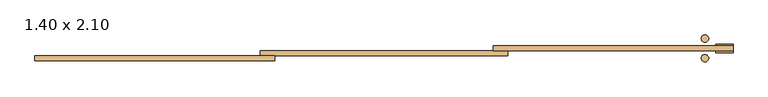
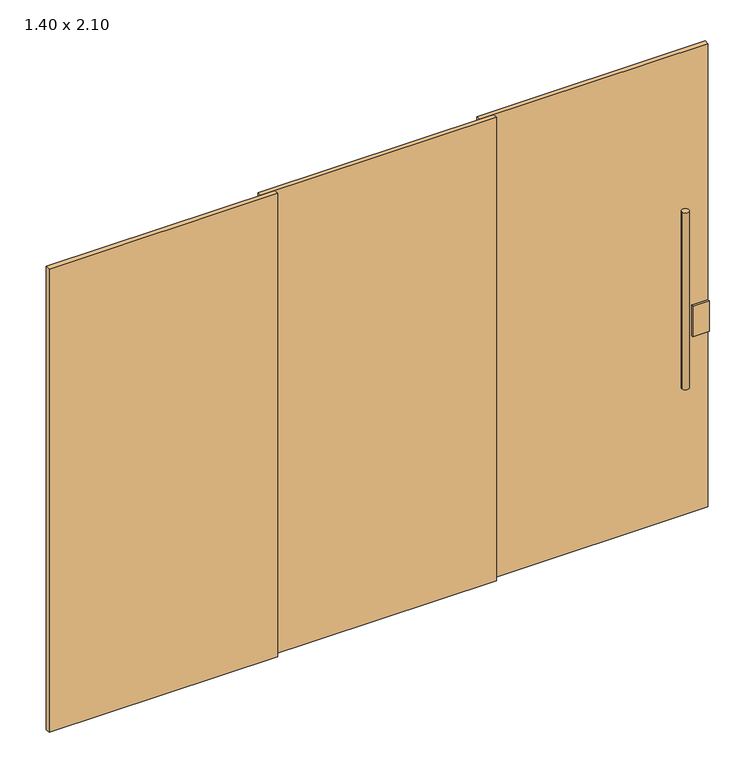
"""IFC4 building model written with IfcOpenShell, lengths in millimetres: door geometry, _Produtos_Arq_Bib_3F - Vidro temperado : 1.40 x 2.10."""

from ifc_helpers import new_model, si_unit, point, frame, frame_2d, origin, origin_with_axes, place, context, project, spatial, polyline, circle_curve, trimmed, segment, composite_curve, outline, extrude, source, transform, mapped, element, save


def door_1_40_x_2_10_d4d27d32(model_context):
    return source(origin(), model_context, "Body", "SweptSolid", [
        extrude(outline(polyline([(-445.0, -40.0), (-1425.0, -40.0), (-1425.0, -20.0), (-445.0, -20.0), (-445.0, -40.0)])), origin_with_axes(), (0.0, 0.0, 1.0), 2100.0),
        extrude(outline(composite_curve([segment(trimmed(circle_curve(frame_2d((1310.0, 50.0)), 15.0), [point((1295.0, 50.0))], [point((1325.0, 50.0))], False, "CARTESIAN"), True, "CONTINUOUS"), segment(trimmed(circle_curve(frame_2d((1310.0, 50.0)), 15.0), [point((1325.0, 50.0))], [point((1295.0, 50.0))], False, "CARTESIAN"), True, "CONTINUOUS")], self_intersect=False)), frame((0.0, 0.0, 600.0), z_axis=(0.0, 0.0, 1.0), x_axis=(1.0, 0.0, 0.0)), (0.0, 0.0, 1.0), 800.0),
        extrude(outline(composite_curve([segment(trimmed(circle_curve(frame_2d((1310.0, -30.0)), 15.0), [point((1295.0, -30.0))], [point((1325.0, -30.0))], False, "CARTESIAN"), True, "CONTINUOUS"), segment(trimmed(circle_curve(frame_2d((1310.0, -30.0)), 15.0), [point((1325.0, -30.0))], [point((1295.0, -30.0))], False, "CARTESIAN"), True, "CONTINUOUS")], self_intersect=False)), frame((0.0, 0.0, 600.0), z_axis=(0.0, 0.0, 1.0), x_axis=(1.0, 0.0, 0.0)), (0.0, 0.0, 1.0), 800.0),
        extrude(outline(polyline([(1425.0, 20.0), (1425.0, 0.0), (445.0, 0.0), (445.0, 20.0), (1425.0, 20.0)])), origin_with_axes(), (0.0, 0.0, 1.0), 2100.0),
        extrude(outline(polyline([(505.0, -20.0), (-505.0, -20.0), (-505.0, 0.0), (505.0, 0.0), (505.0, -20.0)])), origin_with_axes(), (0.0, 0.0, 1.0), 2100.0),
        extrude(outline(polyline([(1425.0, 28.0), (1425.0, 20.0), (1355.0, 20.0), (1355.0, 28.0), (1425.0, 28.0)])), frame((0.0, 0.0, 800.0), z_axis=(0.0, 0.0, 1.0), x_axis=(1.0, 0.0, 0.0)), (0.0, 0.0, 1.0), 140.0),
        extrude(outline(polyline([(1425.0, 0.0), (1425.0, -8.0089534), (1355.0, -8.0089534), (1355.0, 0.0), (1425.0, 0.0)])), frame((0.0, 0.0, 800.0), z_axis=(0.0, 0.0, 1.0), x_axis=(1.0, 0.0, 0.0)), (0.0, 0.0, 1.0), 140.0),
    ])


if __name__ == "__main__":
    model = new_model("IFC4")
    model_context = context("Model", 3, world=origin())
    ifc_project = project(units=[si_unit("LENGTHUNIT", "METRE", prefix="MILLI")], contexts=[model_context])
    site = spatial("IfcSite", under=ifc_project)
    building = spatial("IfcBuilding", under=site)
    placement = place(None, origin())
    door_1_40_x_2_10_shape = door_1_40_x_2_10_d4d27d32(model_context)
    element("IfcDoor", 1, ObjectType="_Produtos_Arq_Bib_3F - Vidro temperado : 1.40 x 2.10", at=placement, inside=building, context=model_context, shape_type="MappedRepresentation", body=[
        mapped(door_1_40_x_2_10_shape, transform((0.0, 0.0, 0.0), x_axis=(1.0, 0.0, 0.0), y_axis=(0.0, 1.0, 0.0), z_axis=(0.0, 0.0, 1.0))),
    ])
    save(model, "model.ifc")
